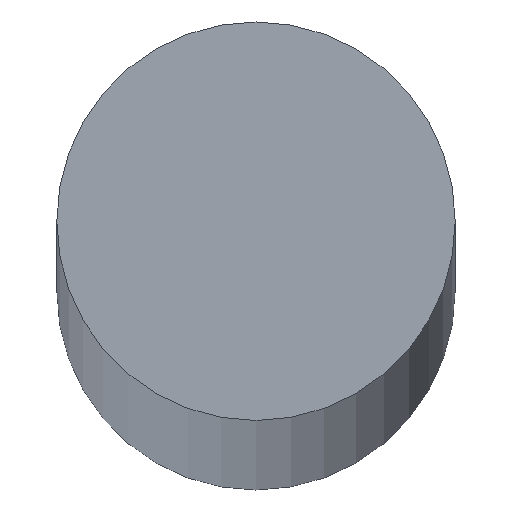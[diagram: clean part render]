
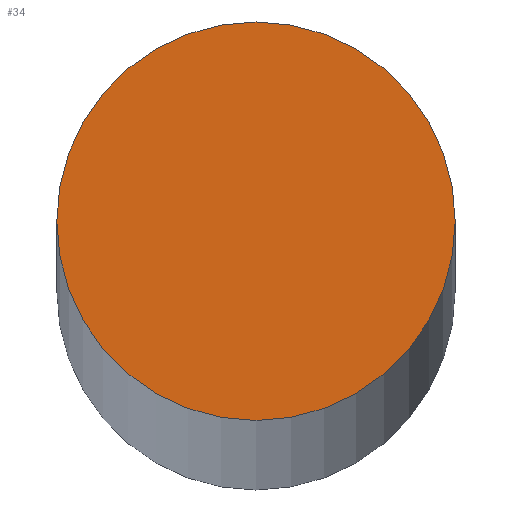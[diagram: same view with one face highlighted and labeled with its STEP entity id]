
A CAD part, top view. The second image highlights one B-rep face of the part: STEP entity #34.
In plain terms, the highlighted planar face has unit normal (0, 0, 1).
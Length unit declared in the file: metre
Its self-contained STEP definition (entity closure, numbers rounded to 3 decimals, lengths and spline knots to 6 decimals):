
#12=PLANE('',#52);
#16=ORIENTED_EDGE('',*,*,#18,.T.);
#18=EDGE_CURVE('',#20,#20,#22,.T.);
#20=VERTEX_POINT('',#69);
#22=CIRCLE('',#50,0.002);
#26=EDGE_LOOP('',(#16));
#30=FACE_BOUND('',#26,.T.);
#34=ADVANCED_FACE('',(#30),#12,.T.);
#50=AXIS2_PLACEMENT_3D('',#68,#58,#59);
#52=AXIS2_PLACEMENT_3D('',#72,#62,#63);
#58=DIRECTION('',(0.,0.,1.));
#59=DIRECTION('',(1.,0.,0.));
#62=DIRECTION('',(0.,0.,1.));
#63=DIRECTION('',(1.,0.,0.));
#68=CARTESIAN_POINT('',(0.,0.,0.4));
#69=CARTESIAN_POINT('',(0.002,0.,0.4));
#72=CARTESIAN_POINT('',(0.,0.,0.4));
